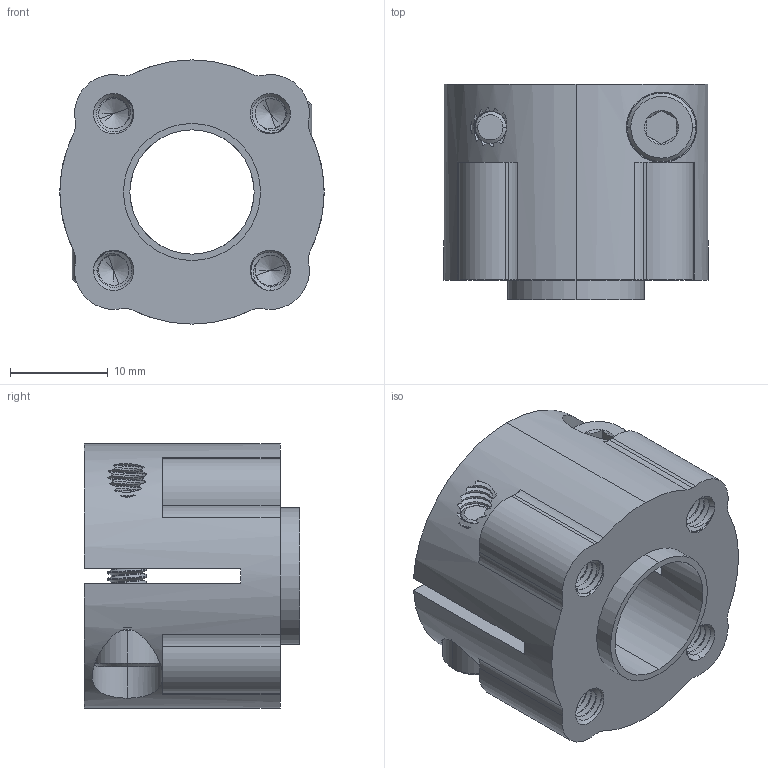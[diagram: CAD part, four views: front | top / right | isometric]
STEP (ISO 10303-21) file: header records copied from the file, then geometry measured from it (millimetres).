
FILE_DESCRIPTION (( 'STEP AP203' ), '1' );
FILE_NAME ('1310-0016-0500 assembly.STEP', '2020-11-18T19:28:53', ( '' ), ( '' ), 'SwSTEP 2.0', 'SolidWorks 2016', '' );
FILE_SCHEMA (( 'CONFIG_CONTROL_DESIGN' ));
Length unit declared in the file: millimetre
Products named in the file (3): 1310-0016-0500 assembly; 2800-0004-0014_90128A207; 1310-0016-0500
Assembly tree (3 placements, depth 2):
  1310-0016-0500 assembly
    1310-0016-0500
    2800-0004-0014_90128A207  x2
Bounding box: 27 x 22 x 27 mm (x, y, z)
Volume: 8545.2 mm3; surface area: 6173.3 mm2
Topology: 3 solids, 3 shells, 618 faces, 1770 edges, 1158 vertices
Faces by surface type: cylinder 496, cone 48, plane 44, bspline 30
Entity records: 50411 total; most frequent: CARTESIAN_POINT 39110, ORIENTED_EDGE 2934, DIRECTION 1742, EDGE_CURVE 1467, VERTEX_POINT 967, AXIS2_PLACEMENT_3D 648, EDGE_LOOP 526, FACE_OUTER_BOUND 510
